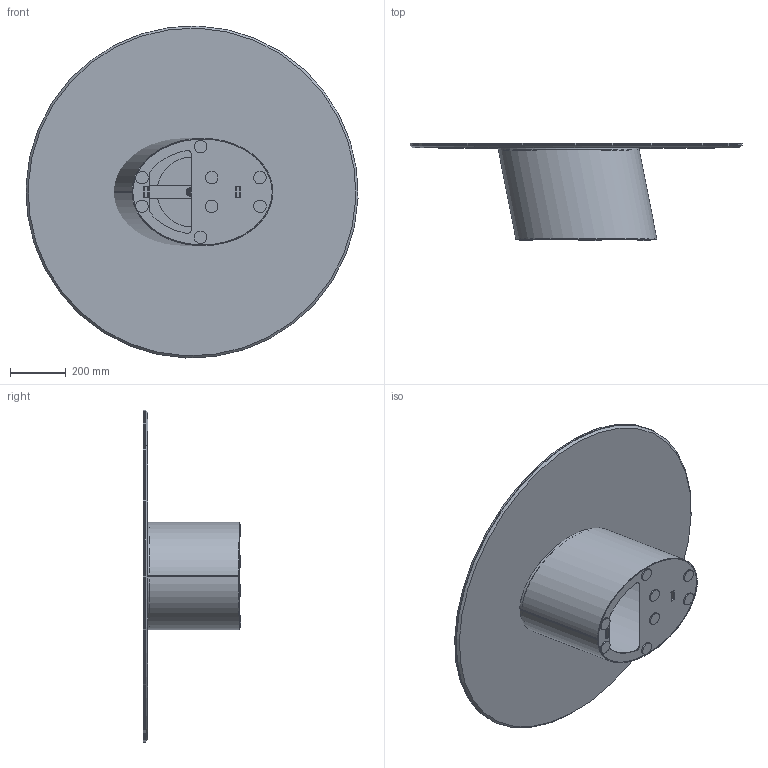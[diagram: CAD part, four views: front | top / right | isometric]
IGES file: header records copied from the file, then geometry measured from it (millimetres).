
Start section: SolidWorks IGES file using analytic representation for surfaces
Global section: file name: Y:\eforma\TECNICO\SOLIDWORKS\E-FORMA\2-TAVOLINI\DORADO LOW\02 parts\D114C.IGS; native system: SolidWorks 2022; preprocessor: SolidWorks 2022; author: eforma.tech; date: 240807.132058; units: millimetre
Bounding box: 1189.16 x 349 x 1189.16 mm (x, y, z)
Volume: 19913401 mm3; surface area: 6056234.3 mm2
Topology: 20 solids, 20 shells, 246 faces, 593 edges, 386 vertices
Faces by surface type: revolution 127, plane 102, bspline 17
